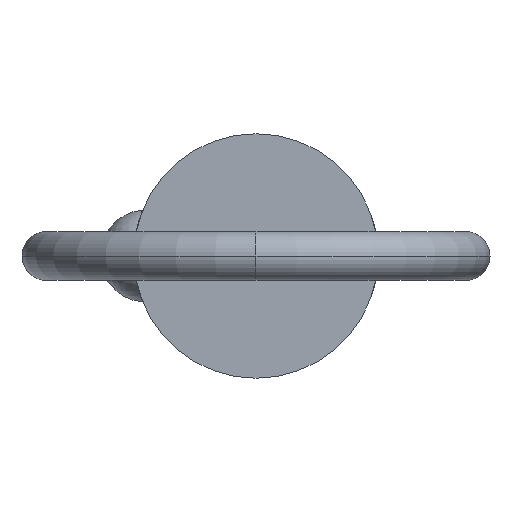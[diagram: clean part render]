
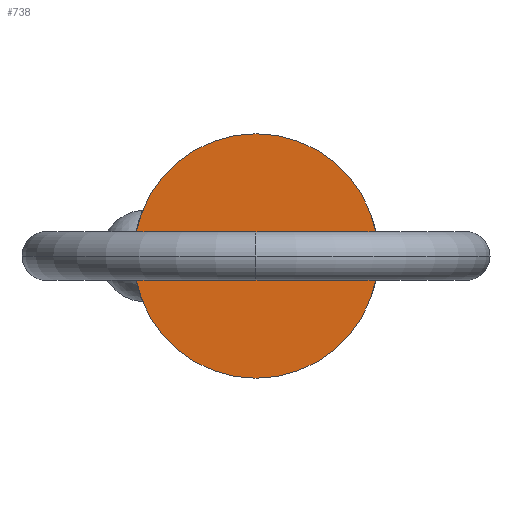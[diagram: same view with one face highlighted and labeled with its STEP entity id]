
A CAD part, left-side view. The second image highlights one B-rep face of the part: STEP entity #738.
In plain terms, the highlighted planar face has unit normal (-1, 0, 0).
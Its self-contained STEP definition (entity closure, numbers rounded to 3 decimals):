
#29 = CARTESIAN_POINT ( 'NONE',  ( 0., 0., 0. ) ) ;
#80 = ORIENTED_EDGE ( 'NONE', *, *, #92, .F. ) ;
#83 = ORIENTED_EDGE ( 'NONE', *, *, #374, .F. ) ;
#92 = EDGE_CURVE ( 'NONE', #767, #334, #813, .T. ) ;
#99 = DIRECTION ( 'NONE',  ( 0., 0., -1. ) ) ;
#101 = DIRECTION ( 'NONE',  ( 0., 0., 1. ) ) ;
#194 = AXIS2_PLACEMENT_3D ( 'NONE', #29, #366, #720 ) ;
#238 = PLANE ( 'NONE',  #364 ) ;
#309 = DIRECTION ( 'NONE',  ( -1., 0., 0. ) ) ;
#334 = VERTEX_POINT ( 'NONE', #669 ) ;
#364 = AXIS2_PLACEMENT_3D ( 'NONE', #654, #309, #101 ) ;
#366 = DIRECTION ( 'NONE',  ( 1., 0., 0. ) ) ;
#374 = EDGE_CURVE ( 'NONE', #334, #767, #661, .T. ) ;
#654 = CARTESIAN_POINT ( 'NONE',  ( 0., 0., 0. ) ) ;
#660 = DIRECTION ( 'NONE',  ( 1., 0., 0. ) ) ;
#661 = CIRCLE ( 'NONE', #889, 11.115 ) ;
#669 = CARTESIAN_POINT ( 'NONE',  ( 0., 0., 11.115 ) ) ;
#684 = EDGE_LOOP ( 'NONE', ( #80, #83 ) ) ;
#720 = DIRECTION ( 'NONE',  ( 0., 0., -1. ) ) ;
#722 = CARTESIAN_POINT ( 'NONE',  ( 0., 0., -11.115 ) ) ;
#738 = ADVANCED_FACE ( 'NONE', ( #871 ), #238, .T. ) ;
#739 = CARTESIAN_POINT ( 'NONE',  ( 0., 0., 0. ) ) ;
#767 = VERTEX_POINT ( 'NONE', #722 ) ;
#813 = CIRCLE ( 'NONE', #194, 11.115 ) ;
#871 = FACE_OUTER_BOUND ( 'NONE', #684, .T. ) ;
#889 = AXIS2_PLACEMENT_3D ( 'NONE', #739, #660, #99 ) ;
